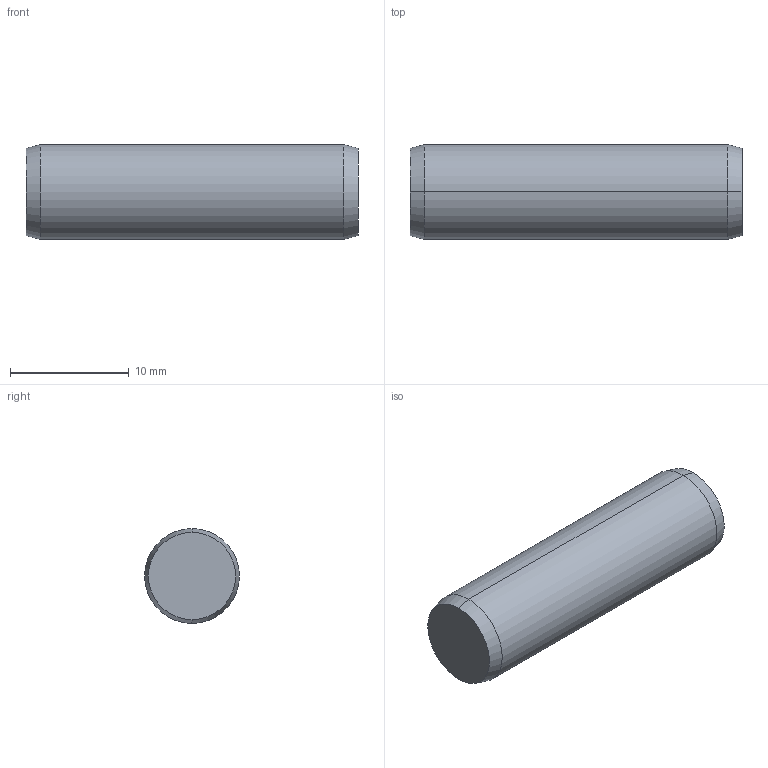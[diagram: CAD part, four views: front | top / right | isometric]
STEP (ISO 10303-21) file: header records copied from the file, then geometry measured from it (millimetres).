
FILE_DESCRIPTION (( 'STEP AP203' ), '1' );
FILE_NAME ('P1206.080-028.step', '2017-06-14T08:26:42', ( 'User' ), ( '' ), 'SwSTEP 2.0', 'SolidWorks 2009', '' );
FILE_SCHEMA (( 'CONFIG_CONTROL_DESIGN' ));
Length unit declared in the file: millimetre
Products named in the file (1): P1206.080-028
Bounding box: 28 x 8 x 8 mm (x, y, z)
Volume: 1398 mm3; surface area: 788.4 mm2
Topology: 1 solids, 1 shells, 8 faces, 14 edges, 8 vertices
Faces by surface type: cone 4, cylinder 2, plane 2
Entity records: 271 total; most frequent: DIRECTION 40, CARTESIAN_POINT 31, ORIENTED_EDGE 28, AXIS2_PLACEMENT_3D 17, EDGE_CURVE 14, EDGE_LOOP 8, ADVANCED_FACE 8, VERTEX_POINT 8
